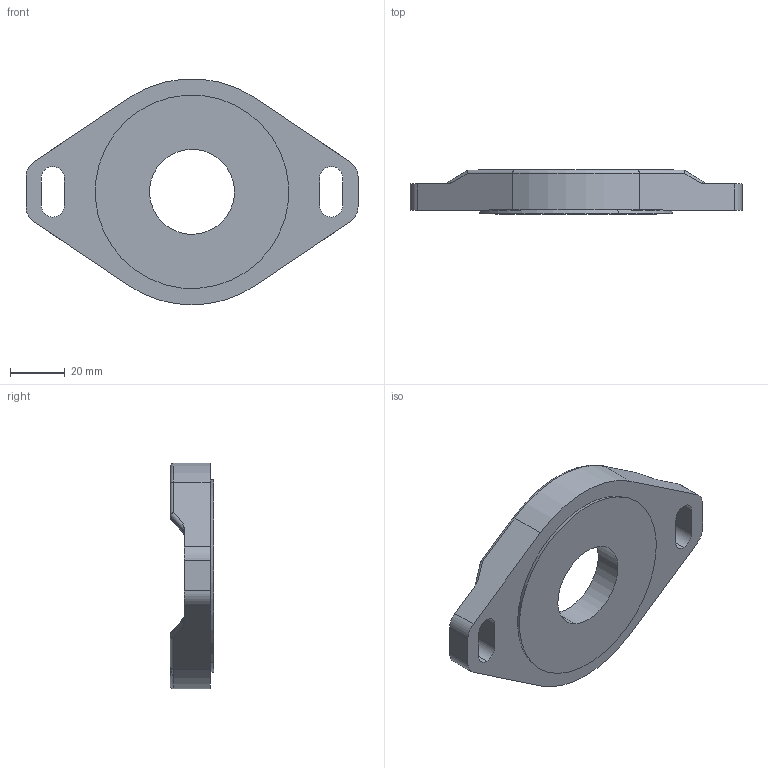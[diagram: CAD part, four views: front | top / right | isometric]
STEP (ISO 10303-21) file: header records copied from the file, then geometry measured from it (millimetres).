
FILE_DESCRIPTION (( 'STEP AP203' ), '1' );
FILE_NAME ('RLF-104T.STEP', '2014-10-29T19:15:34', ( '' ), ( '' ), 'SwSTEP 2.0', 'SolidWorks 2014', '' );
FILE_SCHEMA (( 'CONFIG_CONTROL_DESIGN' ));
Length unit declared in the file: inch
Products named in the file (1): RLF-104T
Bounding box: 121.16 x 15.98 x 82.4 mm (x, y, z)
Surface area: 22614.1 mm2 (no closed solid volume)
Topology: 0 solids, 2 shells, 87 faces, 225 edges, 134 vertices
Faces by surface type: cylinder 40, plane 24, bspline 8, torus 7, cone 4, sphere 4
Entity records: 2908 total; most frequent: CARTESIAN_POINT 763, DIRECTION 446, ORIENTED_EDGE 426, EDGE_CURVE 221, AXIS2_PLACEMENT_3D 169, VERTEX_POINT 134, VECTOR 108, LINE 108
